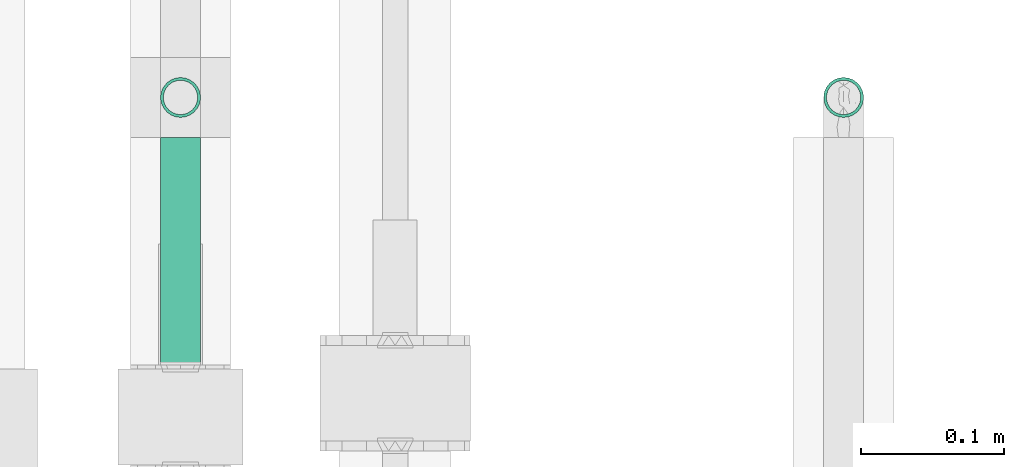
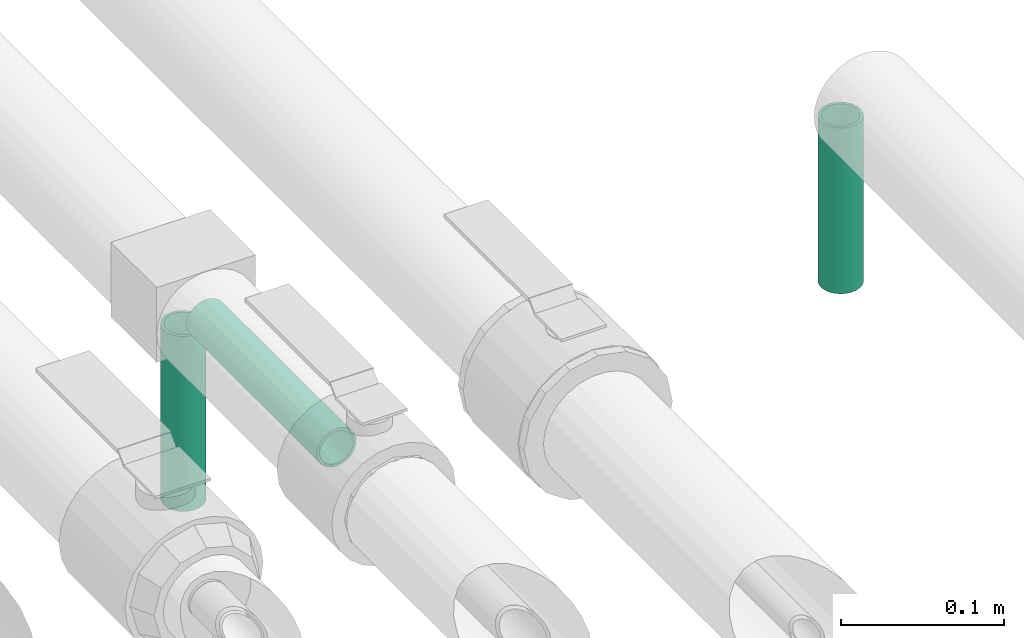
# One storey, part 35 of 83: 3 flow segments.
"""IFC2X3 building model written with IfcOpenShell, lengths in millimetres."""

from ifc_helpers import new_model, entity, si_unit, converted_unit, derived_unit, direction, frame, origin_with_axes, origin_2d_with_axis, place, context, subcontext, project, spatial, hollow_circle, extrude, source, transform, mapped, type_object, element, save


model = new_model("IFC2X3")

# Units and contexts
model_context = context("Model", 3, precision=0.01, world=frame((0.0, 4.29681676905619e-09, 0.0)), true_north=direction((4.01073788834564e-13, 1.0)))
plan_context = context("Plan", 3, precision=0.01, world=frame((0.0, 4.29681676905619e-09, 0.0)), true_north=direction((4.01073788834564e-13, 1.0)))
body_context = subcontext(model_context, "Body", "Model", "MODEL_VIEW")
ifc_project = project(units=[converted_unit("PLANEANGLEUNIT", "DEGREE", entity("IfcPositiveLengthMeasure", 0.0174532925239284), si_unit("PLANEANGLEUNIT", "RADIAN"), dimensions=[0, 0, 0, 0, 0, 0, 0]), si_unit("AREAUNIT", "SQUARE_METRE"), si_unit("LENGTHUNIT", "METRE", prefix="MILLI"), si_unit("MASSUNIT", "GRAM", prefix="KILO"), si_unit("POWERUNIT", "WATT"), si_unit("PRESSUREUNIT", "PASCAL"), si_unit("FORCEUNIT", "NEWTON", prefix="KILO"), si_unit("ELECTRICVOLTAGEUNIT", "VOLT"), si_unit("ELECTRICCURRENTUNIT", "AMPERE"), si_unit("THERMODYNAMICTEMPERATUREUNIT", "DEGREE_CELSIUS"), si_unit("TIMEUNIT", "SECOND"), si_unit("VOLUMEUNIT", "CUBIC_METRE"), derived_unit("LINEARVELOCITYUNIT", [(si_unit("LENGTHUNIT", "METRE"), 1), (si_unit("TIMEUNIT", "SECOND"), -1)]), derived_unit("VOLUMETRICFLOWRATEUNIT", [(si_unit("VOLUMEUNIT", "CUBIC_METRE"), 1), (si_unit("TIMEUNIT", "SECOND"), -1)]), derived_unit("THERMALTRANSMITTANCEUNIT", [(si_unit("POWERUNIT", "WATT"), 1), (si_unit("THERMODYNAMICTEMPERATUREUNIT", "KELVIN"), -1), (si_unit("AREAUNIT", "SQUARE_METRE"), -1)]), derived_unit("SOUNDPRESSUREUNIT", [(si_unit("PRESSUREUNIT", "PASCAL"), 1)])], contexts=[model_context, plan_context])

# Site, building, storey
site_placement = place(None, frame((0.0, -4.29681676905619e-09, 0.0), z_axis=(0.0, 0.0, 1.0), x_axis=(1.0, 0.0, 0.0)))
site = spatial("IfcSite", under=ifc_project, at=site_placement, Name="ENGM", CompositionType="ELEMENT")
building_placement = place(site_placement, frame((0.0, 4.29681676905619e-09, 0.0), z_axis=(0.0, 0.0, 1.0), x_axis=(1.0, 0.0, 0.0)))
building = spatial("IfcBuilding", under=site, at=building_placement, Name="TI", CompositionType="ELEMENT")
storey_placement = place(building_placement, frame((0.0, 0.0, 204000.0), z_axis=(0.0, 0.0, 1.0), x_axis=(1.0, 0.0, 0.0)))
storey = spatial("IfcBuildingStorey", under=building, at=storey_placement, Name="Nivå D", CompositionType="ELEMENT", Elevation=204000.0)

# Flow segments
pipe_segment_type = type_object("IfcPipeSegmentType", Name="Kobberrør", PredefinedType="RIGIDSEGMENT")
shared_shape_1 = source(origin_with_axes(), body_context, "Body", "SweptSolid", [
    extrude(hollow_circle(Radius=14.0, WallThickness=2.0, at=origin_2d_with_axis()), frame((0.0, 0.0, 0.0), z_axis=(1.0, 0.0, 0.0), x_axis=(0.0, 1.0, 0.0)), (0.0, 0.0, 1.0), 124.0),
])
flow_segment_1_placement = place(storey_placement, frame((600346.50429, 699013.57232, 6024.19993), z_axis=(-1.0, 0.0, 0.0), x_axis=(0.0, 0.0, -1.0)))
element("IfcFlowSegment", 1, at=flow_segment_1_placement, inside=storey, type_object=pipe_segment_type, Name="Kobberrør", context=body_context, shape_type="MappedRepresentation", body=[
    mapped(shared_shape_1, transform((0.0, 0.0, 0.0), scale=1.0)),
])
shared_shape_2 = source(origin_with_axes(), body_context, "Body", "SweptSolid", [
    extrude(hollow_circle(Radius=14.0, WallThickness=2.0, at=origin_2d_with_axis()), frame((0.0, 0.0, 0.0), z_axis=(1.0, 0.0, 0.0), x_axis=(0.0, 1.0, 0.0)), (0.0, 0.0, 1.0), 131.0),
])
flow_segment_2_placement = place(storey_placement, frame((599881.50429, 699013.57232, 6031.17455), z_axis=(1.0, 0.0, 0.0), x_axis=(0.0, 0.0, -1.0)))
element("IfcFlowSegment", 2, at=flow_segment_2_placement, inside=storey, type_object=pipe_segment_type, Name="Kobberrør", context=body_context, shape_type="MappedRepresentation", body=[
    mapped(shared_shape_2, transform((0.0, 0.0, 0.0), scale=1.0)),
])
shared_shape_3 = source(origin_with_axes(), body_context, "Body", "SweptSolid", [
    extrude(hollow_circle(Radius=14.0, WallThickness=2.0, at=origin_2d_with_axis()), frame((0.0, 0.0, 0.0), z_axis=(1.0, 0.0, 0.0), x_axis=(0.0, 1.0, 0.0)), (0.0, 0.0, 1.0), 159.6),
])
flow_segment_3_placement = place(storey_placement, frame((599881.50429, 698985.57232, 6052.17455), z_axis=(0.0, 0.0, 1.0), x_axis=(0.0, -1.0, 0.0)))
element("IfcFlowSegment", 3, at=flow_segment_3_placement, inside=storey, type_object=pipe_segment_type, Name="Kobberrør", context=body_context, shape_type="MappedRepresentation", body=[
    mapped(shared_shape_3, transform((0.0, 0.0, 0.0), scale=1.0)),
])

save(model, "model.ifc")
